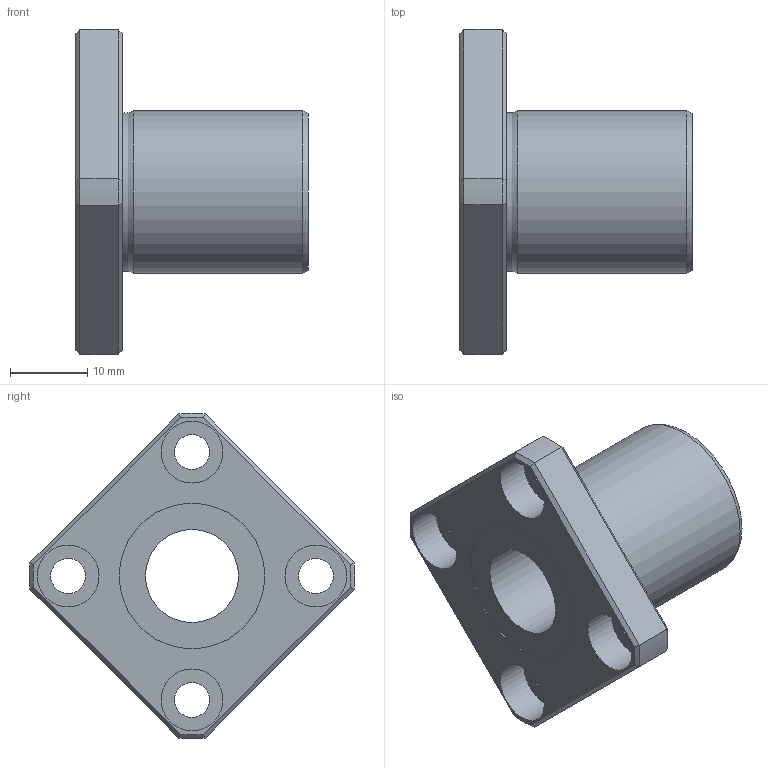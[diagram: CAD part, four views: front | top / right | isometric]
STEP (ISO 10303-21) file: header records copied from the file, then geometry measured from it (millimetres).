
FILE_DESCRIPTION((''),'2;1');
FILE_NAME('D:\製品 (図面)\カタログ用3D\リニアベアリング関連\STEP形式\LFK\LFK12B.stp','2010-06-04T08:48:04',('Tsuchiya'),(''),'Autodesk Inventor 10','Autodesk Inventor 10','');
FILE_SCHEMA(('AUTOMOTIVE_DESIGN { 1 0 10303 214 1 1 1 1 }'));
Length unit declared in the file: millimetre
Products named in the file (1): LFK12B
Bounding box: 30 x 41.98 x 41.98 mm (x, y, z)
Volume: 9934.4 mm3; surface area: 5580.7 mm2
Topology: 1 solids, 1 shells, 47 faces, 96 edges, 58 vertices
Faces by surface type: plane 21, cylinder 16, cone 8, torus 1, bspline 1
Full cylindrical faces by diameter (mm): 4.5 x4, 8 x4, 12 x1, 18.8 x2, 21 x1
Entity records: 1275 total; most frequent: CARTESIAN_POINT 298, DIRECTION 202, ORIENTED_EDGE 164, AXIS2_PLACEMENT_3D 89, EDGE_CURVE 82, EDGE_LOOP 78, VERTEX_POINT 58, FACE_OUTER_BOUND 47
